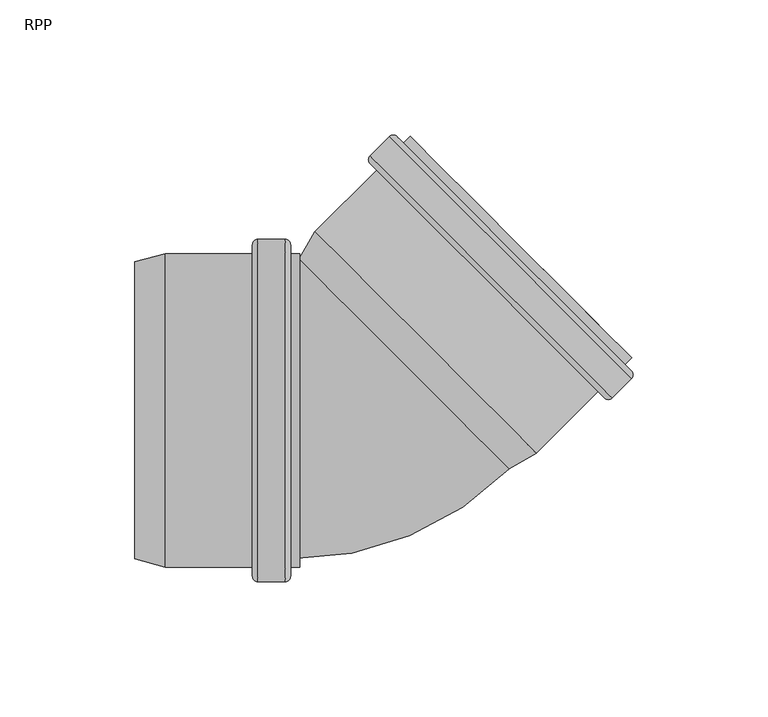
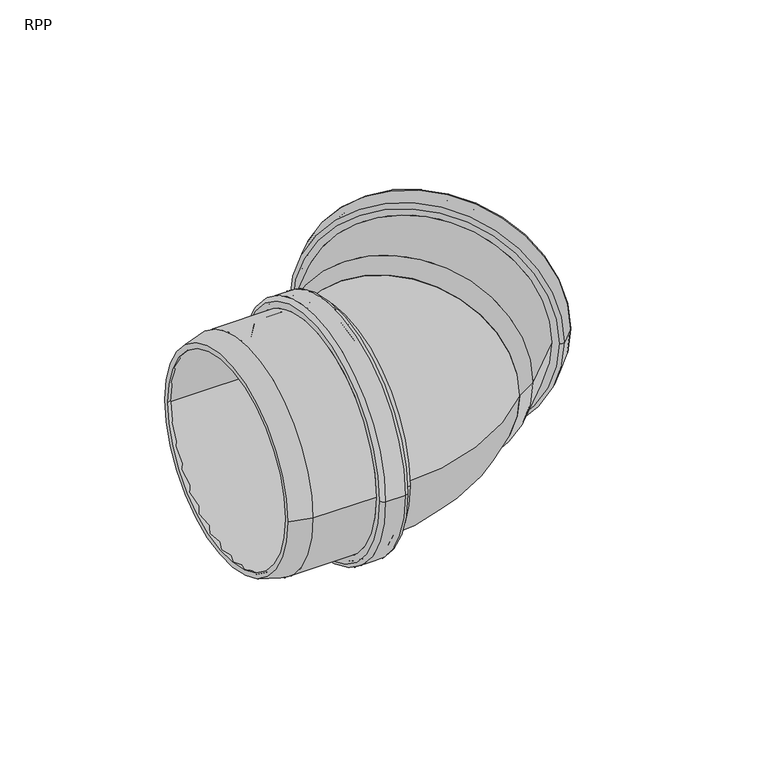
"""IFC4 building model written with IfcOpenShell, lengths in millimetres: pipe fitting geometry, RAUPIANO PLUS Bend : RPP."""

from ifc_helpers import new_model, si_unit, point, frame, origin, place, context, project, spatial, polyline, circle_curve, ellipse_curve, trimmed, source, transform, mapped, element, save
from ifc_brep_helpers import plane_surface, cylinder_surface, revolved_surface, advanced_brep


def rpp_add493c2(model_context):
    return source(origin(), model_context, "Body", "AdvancedBrep", [
        advanced_brep(
        [(-36.2386002, -55.3, 0.0), (-36.2386002, 55.3, 0.0), (-70.886986, 55.3, 0.0), (-70.886986, -55.3, 0.0), (-35.7386002, -60.7, 0.0), (-35.7386002, 60.7, 0.0), (-36.2386002, 60.2, 0.0), (-36.2386002, -60.2, 0.0), (-28.0386002, -60.7, 0.0), (-28.0386002, 60.7, 0.0), (-27.5386002, -60.2, 0.0), (-27.5386002, 60.2, 0.0), (-21.3386002, -55.3, 0.0), (-21.3386002, 55.3, 0.0), (-27.5386002, 55.3, 0.0), (-27.5386002, -55.3, 0.0), (-24.8386002, -58.0, 0.0), (-24.8386002, 58.0, 0.0), (-21.3386002, 58.0, 0.0), (-21.3386002, -58.0, 0.0), (-26.8386002, -63.4, 0.0), (-26.8386002, 63.4, 0.0), (-24.8386002, 61.4, 0.0), (-24.8386002, -61.4, 0.0), (-36.9386002, -63.4, 0.0), (-36.9386002, 63.4, 0.0), (-38.9386002, -61.4, 0.0), (-38.9386002, 61.4, 0.0), (-71.2424478, -58.0, 0.0), (-71.2424478, 58.0, 0.0), (-38.9386002, 58.0, 0.0), (-38.9386002, -58.0, 0.0), (-82.4386002, -55.0, 0.0), (-82.4386002, 55.0, 0.0), (-82.4386002, 52.2047543, 0.0), (-82.4386002, -52.2047543, 0.0)],
        [
            (0, 1, circle_curve(frame((-36.2386002, 0.0, 0.0), z_axis=(1.0, 0.0, 0.0), x_axis=(0.0, 1.0, 0.0)), 55.3)),
            (1, 2),
            (2, 3, circle_curve(frame((-70.886986, 0.0, 0.0), z_axis=(-1.0, 0.0, 0.0), x_axis=(0.0, 1.0, 0.0)), 55.3)),
            (3, 0),
            (4, 5, circle_curve(frame((-35.7386002, 0.0, 0.0), z_axis=(1.0, 0.0, 0.0), x_axis=(0.0, 1.0, 0.0)), 60.7)),
            (5, 6, circle_curve(frame((-35.7386002, 60.2, 0.0), z_axis=(0.0, 0.0, 1.0), x_axis=(0.0, -1.0, 0.0)), 0.5)),
            (6, 7, circle_curve(frame((-36.2386002, 0.0, 0.0), z_axis=(-1.0, 0.0, 0.0), x_axis=(0.0, 1.0, 0.0)), 60.2)),
            (7, 4, circle_curve(frame((-35.7386002, -60.2, 0.0), z_axis=(0.0, 0.0, 1.0), x_axis=(0.0, 1.0, 0.0)), 0.5)),
            (8, 9, circle_curve(frame((-28.0386002, 0.0, 0.0), z_axis=(1.0, 0.0, 0.0), x_axis=(0.0, 1.0, 0.0)), 60.7)),
            (9, 5),
            (4, 8),
            (10, 11, circle_curve(frame((-27.5386002, 0.0, 0.0), z_axis=(1.0, 0.0, 0.0), x_axis=(0.0, 1.0, 0.0)), 60.2)),
            (11, 9, circle_curve(frame((-28.0386002, 60.2, 0.0), z_axis=(0.0, 0.0, 1.0), x_axis=(0.0, -1.0, 0.0)), 0.5)),
            (8, 10, circle_curve(frame((-28.0386002, -60.2, 0.0), z_axis=(0.0, 0.0, 1.0), x_axis=(0.0, 1.0, 0.0)), 0.5)),
            (12, 13, circle_curve(frame((-21.3386002, 0.0, 0.0), z_axis=(1.0, 0.0, 0.0), x_axis=(0.0, 1.0, 0.0)), 55.3)),
            (13, 14),
            (14, 15, circle_curve(frame((-27.5386002, 0.0, 0.0), z_axis=(-1.0, 0.0, 0.0), x_axis=(0.0, 1.0, 0.0)), 55.3)),
            (15, 12),
            (16, 17, circle_curve(frame((-24.8386002, 0.0, 0.0), z_axis=(1.0, 0.0, 0.0), x_axis=(0.0, 1.0, 0.0)), 58.0)),
            (17, 18),
            (18, 19, circle_curve(frame((-21.3386002, 0.0, 0.0), z_axis=(-1.0, 0.0, 0.0), x_axis=(0.0, 1.0, 0.0)), 58.0)),
            (19, 16),
            (20, 21, circle_curve(frame((-26.8386002, 0.0, 0.0), z_axis=(1.0, 0.0, 0.0), x_axis=(0.0, 1.0, 0.0)), 63.4)),
            (21, 22, circle_curve(frame((-26.8386002, 61.4, 0.0), z_axis=(0.0, 0.0, -1.0), x_axis=(0.0, -1.0, 0.0)), 2.0)),
            (22, 23, circle_curve(frame((-24.8386002, 0.0, 0.0), z_axis=(-1.0, 0.0, 0.0), x_axis=(0.0, 1.0, 0.0)), 61.4)),
            (23, 20, circle_curve(frame((-26.8386002, -61.4, 0.0), z_axis=(0.0, 0.0, -1.0), x_axis=(0.0, 1.0, 0.0)), 2.0)),
            (24, 25, circle_curve(frame((-36.9386002, 0.0, 0.0), z_axis=(1.0, 0.0, 0.0), x_axis=(0.0, 1.0, 0.0)), 63.4)),
            (25, 21),
            (20, 24),
            (26, 27, circle_curve(frame((-38.9386002, 0.0, 0.0), z_axis=(1.0, 0.0, 0.0), x_axis=(0.0, 1.0, 0.0)), 61.4)),
            (27, 25, circle_curve(frame((-36.9386002, 61.4, 0.0), z_axis=(0.0, 0.0, -1.0), x_axis=(0.0, -1.0, 0.0)), 2.0)),
            (24, 26, circle_curve(frame((-36.9386002, -61.4, 0.0), z_axis=(0.0, 0.0, -1.0), x_axis=(0.0, 1.0, 0.0)), 2.0)),
            (28, 29, circle_curve(frame((-71.2424478, 0.0, 0.0), z_axis=(1.0, 0.0, 0.0), x_axis=(0.0, 1.0, 0.0)), 58.0)),
            (29, 30),
            (30, 31, circle_curve(frame((-38.9386002, 0.0, 0.0), z_axis=(-1.0, 0.0, 0.0), x_axis=(0.0, 1.0, 0.0)), 58.0)),
            (31, 28),
            (32, 33, circle_curve(frame((-82.4386002, 0.0, 0.0), z_axis=(1.0, 0.0, 0.0), x_axis=(0.0, 1.0, 0.0)), 55.0)),
            (33, 29),
            (28, 32),
            (2, 34),
            (34, 35, circle_curve(frame((-82.4386002, 0.0, 0.0), z_axis=(-1.0, 0.0, 0.0), x_axis=(0.0, 1.0, 0.0)), 52.2047543)),
            (35, 3),
            (1, 0, circle_curve(frame((-36.2386002, 0.0, 0.0), z_axis=(1.0, 0.0, 0.0), x_axis=(0.0, -1.0, 0.0)), 55.3)),
            (3, 2, circle_curve(frame((-70.886986, 0.0, 0.0), z_axis=(-1.0, 0.0, 0.0), x_axis=(0.0, -1.0, 0.0)), 55.3)),
            (6, 7, circle_curve(frame((-36.2386002, 0.0, 0.0), z_axis=(1.0, 0.0, 0.0), x_axis=(0.0, -1.0, 0.0)), 60.2)),
            (5, 4, circle_curve(frame((-35.7386002, 0.0, 0.0), z_axis=(1.0, 0.0, 0.0), x_axis=(0.0, -1.0, 0.0)), 60.7)),
            (9, 8, circle_curve(frame((-28.0386002, 0.0, 0.0), z_axis=(1.0, 0.0, 0.0), x_axis=(0.0, -1.0, 0.0)), 60.7)),
            (11, 10, circle_curve(frame((-27.5386002, 0.0, 0.0), z_axis=(1.0, 0.0, 0.0), x_axis=(0.0, -1.0, 0.0)), 60.2)),
            (14, 15, circle_curve(frame((-27.5386002, 0.0, 0.0), z_axis=(1.0, 0.0, 0.0), x_axis=(0.0, -1.0, 0.0)), 55.3)),
            (13, 12, circle_curve(frame((-21.3386002, 0.0, 0.0), z_axis=(1.0, 0.0, 0.0), x_axis=(0.0, -1.0, 0.0)), 55.3)),
            (18, 19, circle_curve(frame((-21.3386002, 0.0, 0.0), z_axis=(1.0, 0.0, 0.0), x_axis=(0.0, -1.0, 0.0)), 58.0)),
            (17, 16, circle_curve(frame((-24.8386002, 0.0, 0.0), z_axis=(1.0, 0.0, 0.0), x_axis=(0.0, -1.0, 0.0)), 58.0)),
            (22, 23, circle_curve(frame((-24.8386002, 0.0, 0.0), z_axis=(1.0, 0.0, 0.0), x_axis=(0.0, -1.0, 0.0)), 61.4)),
            (21, 20, circle_curve(frame((-26.8386002, 0.0, 0.0), z_axis=(1.0, 0.0, 0.0), x_axis=(0.0, -1.0, 0.0)), 63.4)),
            (25, 24, circle_curve(frame((-36.9386002, 0.0, 0.0), z_axis=(1.0, 0.0, 0.0), x_axis=(0.0, -1.0, 0.0)), 63.4)),
            (27, 26, circle_curve(frame((-38.9386002, 0.0, 0.0), z_axis=(1.0, 0.0, 0.0), x_axis=(0.0, -1.0, 0.0)), 61.4)),
            (30, 31, circle_curve(frame((-38.9386002, 0.0, 0.0), z_axis=(1.0, 0.0, 0.0), x_axis=(0.0, -1.0, 0.0)), 58.0)),
            (29, 28, circle_curve(frame((-71.2424478, 0.0, 0.0), z_axis=(1.0, 0.0, 0.0), x_axis=(0.0, -1.0, 0.0)), 58.0)),
            (33, 32, circle_curve(frame((-82.4386002, 0.0, 0.0), z_axis=(1.0, 0.0, 0.0), x_axis=(0.0, -1.0, 0.0)), 55.0)),
            (34, 35, circle_curve(frame((-82.4386002, 0.0, 0.0), z_axis=(1.0, 0.0, 0.0), x_axis=(0.0, -1.0, 0.0)), 52.2047543)),
        ],
        [
            revolved_surface(polyline([(-70.886986, 55.3, 0.0), (-36.2386002, 55.3, 0.0)]), (-82.4386002, 0.0, 0.0), (-1.0, 0.0, 0.0)),
            revolved_surface(trimmed(ellipse_curve(frame((-35.7386002, 60.2, 0.0), z_axis=(0.0, 0.0, -1.0), x_axis=(0.0, -1.0, 0.0)), 0.5, 0.5), [point((-36.2386002, 60.2, 0.0))], [point((-35.7386002, 60.7, 0.0))], True, "CARTESIAN"), (-82.4386002, 0.0, 0.0), (-1.0, 0.0, 0.0)),
            revolved_surface(polyline([(-35.7386002, 60.7, 0.0), (-28.038600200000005, 60.7, 0.0)]), (-82.4386002, 0.0, 0.0), (-1.0, 0.0, 0.0)),
            revolved_surface(trimmed(ellipse_curve(frame((-28.0386002, 60.2, 0.0), z_axis=(0.0, 0.0, -1.0), x_axis=(0.0, -1.0, 0.0)), 0.5, 0.5), [point((-28.0386002, 60.7, 0.0))], [point((-27.5386002, 60.2, 0.0))], True, "CARTESIAN"), (-82.4386002, 0.0, 0.0), (-1.0, 0.0, 0.0)),
            revolved_surface(polyline([(-27.538600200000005, 55.3, 0.0), (-21.338600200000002, 55.3, 0.0)]), (-82.4386002, 0.0, 0.0), (-1.0, 0.0, 0.0)),
            cylinder_surface(frame((-82.4386002, 0.0, 0.0), z_axis=(-1.0, 0.0, 0.0), x_axis=(0.0, 1.0, 0.0)), 58.0),
            revolved_surface(trimmed(ellipse_curve(frame((-26.8386002, 61.4, 0.0), z_axis=(0.0, 0.0, 1.0), x_axis=(0.0, -1.0, 0.0)), 2.0, 2.0), [point((-24.8386002, 61.4, 0.0))], [point((-26.8386002, 63.4, 0.0))], True, "CARTESIAN"), (-82.4386002, 0.0, 0.0), (-1.0, 0.0, 0.0)),
            cylinder_surface(frame((-82.4386002, 0.0, 0.0), z_axis=(-1.0, 0.0, 0.0), x_axis=(0.0, 1.0, 0.0)), 63.4),
            revolved_surface(trimmed(ellipse_curve(frame((-36.9386002, 61.4, 0.0), z_axis=(0.0, 0.0, 1.0), x_axis=(0.0, -1.0, 0.0)), 2.0, 2.0), [point((-36.9386002, 63.4, 0.0))], [point((-38.9386002, 61.4, 0.0))], True, "CARTESIAN"), (-82.4386002, 0.0, 0.0), (-1.0, 0.0, 0.0)),
            revolved_surface(polyline([(-71.2424478, 58.0, 0.0), (-82.4386002, 55.0, 0.0)]), (-82.4386002, 0.0, 0.0), (-1.0, 0.0, 0.0)),
            revolved_surface(polyline([(-82.4386002, 52.2047543, 0.0), (-70.886986, 55.3, 0.0)]), (-82.4386002, 0.0, 0.0), (-1.0, 0.0, 0.0)),
            revolved_surface(polyline([(-70.886986, -55.3, 0.0), (-36.2386002, -55.3, 0.0)]), (-82.4386002, 0.0, 0.0), (-1.0, 0.0, 0.0)),
            plane_surface(frame((-36.2386002, 0.0, 0.0), z_axis=(1.0, 0.0, 0.0), x_axis=(0.0, -1.0, 0.0))),
            revolved_surface(trimmed(ellipse_curve(frame((-35.7386002, -60.2, 0.0), z_axis=(0.0, 0.0, 1.0), x_axis=(0.0, 1.0, 0.0)), 0.5, 0.5), [point((-36.2386002, -60.2, 0.0))], [point((-35.7386002, -60.7, 0.0))], True, "CARTESIAN"), (-82.4386002, 0.0, 0.0), (-1.0, 0.0, 0.0)),
            revolved_surface(polyline([(-35.7386002, -60.7, 0.0), (-28.038600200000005, -60.7, 0.0)]), (-82.4386002, 0.0, 0.0), (-1.0, 0.0, 0.0)),
            revolved_surface(trimmed(ellipse_curve(frame((-28.0386002, -60.2, 0.0), z_axis=(0.0, 0.0, 1.0), x_axis=(0.0, 1.0, 0.0)), 0.5, 0.5), [point((-28.0386002, -60.7, 0.0))], [point((-27.5386002, -60.2, 0.0))], True, "CARTESIAN"), (-82.4386002, 0.0, 0.0), (-1.0, 0.0, 0.0)),
            plane_surface(frame((-27.5386002, 0.0, 0.0), z_axis=(-1.0, 0.0, 0.0), x_axis=(0.0, -1.0, 0.0))),
            revolved_surface(polyline([(-27.538600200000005, -55.3, 0.0), (-21.338600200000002, -55.3, 0.0)]), (-82.4386002, 0.0, 0.0), (-1.0, 0.0, 0.0)),
            plane_surface(frame((-21.3386002, 0.0, 0.0), z_axis=(1.0, 0.0, 0.0), x_axis=(0.0, -1.0, 0.0))),
            cylinder_surface(frame((-82.4386002, 0.0, 0.0), z_axis=(-1.0, 0.0, 0.0), x_axis=(0.0, -1.0, 0.0)), 58.0),
            plane_surface(frame((-24.8386002, 0.0, 0.0), z_axis=(1.0, 0.0, 0.0), x_axis=(0.0, -1.0, 0.0))),
            revolved_surface(trimmed(ellipse_curve(frame((-26.8386002, -61.4, 0.0), z_axis=(0.0, 0.0, -1.0), x_axis=(0.0, 1.0, 0.0)), 2.0, 2.0), [point((-24.8386002, -61.4, 0.0))], [point((-26.8386002, -63.4, 0.0))], True, "CARTESIAN"), (-82.4386002, 0.0, 0.0), (-1.0, 0.0, 0.0)),
            cylinder_surface(frame((-82.4386002, 0.0, 0.0), z_axis=(-1.0, 0.0, 0.0), x_axis=(0.0, -1.0, 0.0)), 63.4),
            revolved_surface(trimmed(ellipse_curve(frame((-36.9386002, -61.4, 0.0), z_axis=(0.0, 0.0, -1.0), x_axis=(0.0, 1.0, 0.0)), 2.0, 2.0), [point((-36.9386002, -63.4, 0.0))], [point((-38.9386002, -61.4, 0.0))], True, "CARTESIAN"), (-82.4386002, 0.0, 0.0), (-1.0, 0.0, 0.0)),
            plane_surface(frame((-38.9386002, 0.0, 0.0), z_axis=(-1.0, 0.0, 0.0), x_axis=(0.0, -1.0, 0.0))),
            revolved_surface(polyline([(-71.2424478, -58.0, 0.0), (-82.4386002, -55.0, 0.0)]), (-82.4386002, 0.0, 0.0), (-1.0, 0.0, 0.0)),
            plane_surface(frame((-82.4386002, 0.0, 0.0), z_axis=(-1.0, 0.0, 0.0), x_axis=(0.0, -1.0, 0.0))),
            revolved_surface(polyline([(-82.4386002, -52.2047543, 0.0), (-70.886986, -55.3, 0.0)]), (-82.4386002, 0.0, 0.0), (-1.0, 0.0, 0.0)),
        ],
        [
            (0, [[1, 2, 3, 4]]),
            (1, [[5, 6, 7, 8]]),
            (2, [[9, 10, -5, 11]]),
            (3, [[12, 13, -9, 14]]),
            (4, [[15, 16, 17, 18]]),
            (5, [[19, 20, 21, 22]]),
            (6, [[23, 24, 25, 26]]),
            (7, [[27, 28, -23, 29]]),
            (8, [[30, 31, -27, 32]]),
            (5, [[33, 34, 35, 36]]),
            (9, [[37, 38, -33, 39]]),
            (10, [[-3, 40, 41, 42]]),
            (11, [[43, -4, 44, -2]]),
            (12, [[45, -7], [-43, -1]]),
            (13, [[46, -8, -45, -6]]),
            (14, [[47, -11, -46, -10]]),
            (15, [[48, -14, -47, -13]]),
            (16, [[-48, -12], [49, -17]]),
            (17, [[50, -18, -49, -16]]),
            (18, [[51, -21], [-50, -15]]),
            (19, [[52, -22, -51, -20]]),
            (20, [[53, -25], [-52, -19]]),
            (21, [[54, -26, -53, -24]]),
            (22, [[55, -29, -54, -28]]),
            (23, [[56, -32, -55, -31]]),
            (24, [[-56, -30], [57, -35]]),
            (19, [[58, -36, -57, -34]]),
            (25, [[59, -39, -58, -38]]),
            (26, [[-59, -37], [60, -41]]),
            (27, [[-44, -42, -60, -40]]),
        ],
    ),
        advanced_brep(
        [(54.1950357, -19.6336359, 0.0), (-19.6336359, 54.1950357, 0.0), (-13.6540804, 64.5519296, 0.0), (64.5519296, -13.6540804, 0.0), (66.2097685, -15.8146181, 0.0), (-15.8146181, 66.2097685, 0.0), (-21.6101731, 56.1715729, 0.0), (56.1715729, -21.6101731, 0.0), (89.0520382, 7.0276516, 0.0), (7.0276516, 89.0520382, 0.0), (101.4264069, 11.765267, 0.0), (11.765267, 101.4264069, 0.0), (4.6234885, 94.2846284, 0.0), (94.2846284, 4.6234885, 0.0), (101.4971175, 19.4727309, 0.0), (19.4727309, 101.4971175, 0.0), (16.9978572, 99.0222438, 0.0), (99.0222438, 16.9978572, 0.0), (95.2038672, 16.9978572, 0.0), (16.9978572, 95.2038672, 0.0), (21.3819192, 99.5879292, 0.0), (99.5879292, 21.3819192, 0.0), (93.2239682, 7.381205, 0.0), (7.381205, 93.2239682, 0.0), (12.8259272, 98.6686904, 0.0), (98.6686904, 12.8259272, 0.0), (10.8460282, 89.0520382, 0.0), (89.0520382, 10.8460282, 0.0), (4.6234885, 91.4562013, 0.0), (91.4562013, 4.6234885, 0.0), (101.4264069, 14.5936941, 0.0), (14.5936941, 101.4264069, 0.0), (13.533034, 98.6686904, 0.0), (98.6686904, 13.533034, 0.0), (92.5168614, 7.381205, 0.0), (7.381205, 92.5168614, 0.0)],
        [
            (0, 1, circle_curve(frame((17.2806999, 17.2806999, 0.0), z_axis=(-0.7071067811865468, -0.7071067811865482, 0.0), x_axis=(-0.7071067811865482, 0.7071067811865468, 0.0)), 52.2047543)),
            (1, 2),
            (2, 3, circle_curve(frame((25.4489246, 25.4489246, 0.0), z_axis=(0.7071067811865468, 0.7071067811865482, 0.0), x_axis=(-0.7071067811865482, 0.7071067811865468, 0.0)), 55.3)),
            (3, 0),
            (4, 5, circle_curve(frame((25.1975752, 25.1975752, 0.0), z_axis=(-0.7071067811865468, -0.7071067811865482, 0.0), x_axis=(-0.7071067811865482, 0.7071067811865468, 0.0)), 58.0)),
            (5, 6),
            (6, 7, circle_curve(frame((17.2806999, 17.2806999, 0.0), z_axis=(0.7071067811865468, 0.7071067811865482, 0.0), x_axis=(-0.7071067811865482, 0.7071067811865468, 0.0)), 55.0)),
            (7, 4),
            (8, 9, circle_curve(frame((48.0398449, 48.0398449, 0.0), z_axis=(-0.7071067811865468, -0.7071067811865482, 0.0), x_axis=(-0.7071067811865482, 0.7071067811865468, 0.0)), 58.0)),
            (9, 5),
            (4, 8),
            (10, 11, circle_curve(frame((56.5958369, 56.5958369, 0.0), z_axis=(-0.7071067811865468, -0.7071067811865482, 0.0), x_axis=(-0.7071067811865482, 0.7071067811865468, 0.0)), 63.4)),
            (11, 12),
            (12, 13, circle_curve(frame((49.4540585, 49.4540585, 0.0), z_axis=(0.7071067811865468, 0.7071067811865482, 0.0), x_axis=(-0.7071067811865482, 0.7071067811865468, 0.0)), 63.4)),
            (13, 10),
            (14, 15, circle_curve(frame((60.4849242, 60.4849242, 0.0), z_axis=(-0.7071067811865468, -0.7071067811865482, 0.0), x_axis=(-0.7071067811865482, 0.7071067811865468, 0.0)), 58.0)),
            (15, 16),
            (16, 17, circle_curve(frame((58.0100505, 58.0100505, 0.0), z_axis=(0.7071067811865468, 0.7071067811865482, 0.0), x_axis=(-0.7071067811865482, 0.7071067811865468, 0.0)), 58.0)),
            (17, 14),
            (18, 19, circle_curve(frame((56.1008622, 56.1008622, 0.0), z_axis=(-0.7071067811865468, -0.7071067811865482, 0.0), x_axis=(-0.7071067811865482, 0.7071067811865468, 0.0)), 55.3)),
            (19, 20),
            (20, 21, circle_curve(frame((60.4849242, 60.4849242, 0.0), z_axis=(0.7071067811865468, 0.7071067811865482, 0.0), x_axis=(-0.7071067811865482, 0.7071067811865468, 0.0)), 55.3)),
            (21, 18),
            (22, 23, circle_curve(frame((50.3025866, 50.3025866, 0.0), z_axis=(-0.7071067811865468, -0.7071067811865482, 0.0), x_axis=(-0.7071067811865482, 0.7071067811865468, 0.0)), 60.7)),
            (23, 24),
            (24, 25, circle_curve(frame((55.7473088, 55.7473088, 0.0), z_axis=(0.7071067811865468, 0.7071067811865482, 0.0), x_axis=(-0.7071067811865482, 0.7071067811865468, 0.0)), 60.7)),
            (25, 22),
            (2, 26),
            (26, 27, circle_curve(frame((49.9490332, 49.9490332, 0.0), z_axis=(0.7071067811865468, 0.7071067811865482, 0.0), x_axis=(-0.7071067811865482, 0.7071067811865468, 0.0)), 55.3)),
            (27, 3),
            (1, 0, circle_curve(frame((17.2806999, 17.2806999, 0.0), z_axis=(-0.7071067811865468, -0.7071067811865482, 0.0), x_axis=(0.7071067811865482, -0.7071067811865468, 0.0)), 52.2047543)),
            (3, 2, circle_curve(frame((25.4489246, 25.4489246, 0.0), z_axis=(0.7071067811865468, 0.7071067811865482, 0.0), x_axis=(0.7071067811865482, -0.7071067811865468, 0.0)), 55.3)),
            (6, 7, circle_curve(frame((17.2806999, 17.2806999, 0.0), z_axis=(-0.7071067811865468, -0.7071067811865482, 0.0), x_axis=(0.7071067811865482, -0.7071067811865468, 0.0)), 55.0)),
            (5, 4, circle_curve(frame((25.1975752, 25.1975752, 0.0), z_axis=(-0.7071067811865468, -0.7071067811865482, 0.0), x_axis=(0.7071067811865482, -0.7071067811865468, 0.0)), 58.0)),
            (9, 8, circle_curve(frame((48.0398449, 48.0398449, 0.0), z_axis=(-0.7071067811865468, -0.7071067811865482, 0.0), x_axis=(0.7071067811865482, -0.7071067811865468, 0.0)), 58.0)),
            (28, 29, circle_curve(frame((48.0398449, 48.0398449, 0.0), z_axis=(-0.7071067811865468, -0.7071067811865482, 0.0), x_axis=(0.7071067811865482, -0.7071067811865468, 0.0)), 61.4)),
            (29, 28, circle_curve(frame((48.0398449, 48.0398449, 0.0), z_axis=(-0.7071067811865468, -0.7071067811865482, 0.0), x_axis=(-0.7071067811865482, 0.7071067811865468, 0.0)), 61.4)),
            (11, 10, circle_curve(frame((56.5958369, 56.5958369, 0.0), z_axis=(-0.7071067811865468, -0.7071067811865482, 0.0), x_axis=(0.7071067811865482, -0.7071067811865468, 0.0)), 63.4)),
            (13, 12, circle_curve(frame((49.4540585, 49.4540585, 0.0), z_axis=(0.7071067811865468, 0.7071067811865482, 0.0), x_axis=(0.7071067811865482, -0.7071067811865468, 0.0)), 63.4)),
            (30, 31, circle_curve(frame((58.0100505, 58.0100505, 0.0), z_axis=(0.7071067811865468, 0.7071067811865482, 0.0), x_axis=(0.7071067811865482, -0.7071067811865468, 0.0)), 61.4)),
            (31, 30, circle_curve(frame((58.0100505, 58.0100505, 0.0), z_axis=(0.7071067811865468, 0.7071067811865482, 0.0), x_axis=(-0.7071067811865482, 0.7071067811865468, 0.0)), 61.4)),
            (16, 17, circle_curve(frame((58.0100505, 58.0100505, 0.0), z_axis=(-0.7071067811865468, -0.7071067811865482, 0.0), x_axis=(0.7071067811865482, -0.7071067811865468, 0.0)), 58.0)),
            (15, 14, circle_curve(frame((60.4849242, 60.4849242, 0.0), z_axis=(-0.7071067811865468, -0.7071067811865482, 0.0), x_axis=(0.7071067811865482, -0.7071067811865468, 0.0)), 58.0)),
            (20, 21, circle_curve(frame((60.4849242, 60.4849242, 0.0), z_axis=(-0.7071067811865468, -0.7071067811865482, 0.0), x_axis=(0.7071067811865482, -0.7071067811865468, 0.0)), 55.3)),
            (19, 18, circle_curve(frame((56.1008622, 56.1008622, 0.0), z_axis=(-0.7071067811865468, -0.7071067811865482, 0.0), x_axis=(0.7071067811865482, -0.7071067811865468, 0.0)), 55.3)),
            (32, 33, circle_curve(frame((56.1008622, 56.1008622, 0.0), z_axis=(-0.7071067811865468, -0.7071067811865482, 0.0), x_axis=(0.7071067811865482, -0.7071067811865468, 0.0)), 60.2)),
            (33, 32, circle_curve(frame((56.1008622, 56.1008622, 0.0), z_axis=(-0.7071067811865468, -0.7071067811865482, 0.0), x_axis=(-0.7071067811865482, 0.7071067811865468, 0.0)), 60.2)),
            (23, 22, circle_curve(frame((50.3025866, 50.3025866, 0.0), z_axis=(-0.7071067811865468, -0.7071067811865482, 0.0), x_axis=(0.7071067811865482, -0.7071067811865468, 0.0)), 60.7)),
            (25, 24, circle_curve(frame((55.7473088, 55.7473088, 0.0), z_axis=(0.7071067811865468, 0.7071067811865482, 0.0), x_axis=(0.7071067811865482, -0.7071067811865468, 0.0)), 60.7)),
            (34, 35, circle_curve(frame((49.9490332, 49.9490332, 0.0), z_axis=(0.7071067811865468, 0.7071067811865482, 0.0), x_axis=(0.7071067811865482, -0.7071067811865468, 0.0)), 60.2)),
            (35, 34, circle_curve(frame((49.9490332, 49.9490332, 0.0), z_axis=(0.7071067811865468, 0.7071067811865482, 0.0), x_axis=(-0.7071067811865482, 0.7071067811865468, 0.0)), 60.2)),
            (26, 27, circle_curve(frame((49.9490332, 49.9490332, 0.0), z_axis=(-0.7071067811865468, -0.7071067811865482, 0.0), x_axis=(0.7071067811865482, -0.7071067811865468, 0.0)), 55.3)),
            (12, 28, circle_curve(frame((6.0377021, 92.8704148, 0.0), z_axis=(0.0, 0.0, 1.0), x_axis=(0.7071067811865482, -0.7071067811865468, 0.0)), 2.0)),
            (29, 13, circle_curve(frame((92.8704148, 6.0377021, 0.0), z_axis=(0.0, 0.0, 1.0), x_axis=(-0.7071067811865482, 0.7071067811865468, 0.0)), 2.0)),
            (31, 11, circle_curve(frame((13.1794806, 100.0121933, 0.0), z_axis=(0.0, 0.0, 1.0), x_axis=(0.7071067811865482, -0.7071067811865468, 0.0)), 2.0)),
            (10, 30, circle_curve(frame((100.0121933, 13.1794806, 0.0), z_axis=(0.0, 0.0, 1.0), x_axis=(-0.7071067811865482, 0.7071067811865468, 0.0)), 2.0)),
            (24, 32, circle_curve(frame((13.1794806, 98.315137, 0.0), z_axis=(0.0, 0.0, -1.0), x_axis=(0.7071067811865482, -0.7071067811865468, 0.0)), 0.5)),
            (33, 25, circle_curve(frame((98.315137, 13.1794806, 0.0), z_axis=(0.0, 0.0, -1.0), x_axis=(-0.7071067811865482, 0.7071067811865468, 0.0)), 0.5)),
            (35, 23, circle_curve(frame((7.7347584, 92.8704148, 0.0), z_axis=(0.0, 0.0, -1.0), x_axis=(0.7071067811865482, -0.7071067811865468, 0.0)), 0.5)),
            (22, 34, circle_curve(frame((92.8704148, 7.7347584, 0.0), z_axis=(0.0, 0.0, -1.0), x_axis=(-0.7071067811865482, 0.7071067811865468, 0.0)), 0.5)),
        ],
        [
            revolved_surface(polyline([(-13.6540804, 64.5519296, 0.0), (-19.6336359, 54.1950357, 0.0)]), (17.2806999, 17.2806999, 0.0), (0.7071067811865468, 0.7071067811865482, 0.0)),
            revolved_surface(polyline([(-21.6101731, 56.1715729, 0.0), (-15.8146181, 66.2097685, 0.0)]), (17.2806999, 17.2806999, 0.0), (0.7071067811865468, 0.7071067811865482, 0.0)),
            cylinder_surface(frame((17.2806999, 17.2806999, 0.0), z_axis=(0.7071067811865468, 0.7071067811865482, 0.0), x_axis=(-0.7071067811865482, 0.7071067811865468, 0.0)), 58.0),
            cylinder_surface(frame((17.2806999, 17.2806999, 0.0), z_axis=(0.7071067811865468, 0.7071067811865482, 0.0), x_axis=(-0.7071067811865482, 0.7071067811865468, 0.0)), 63.4),
            revolved_surface(polyline([(21.38191920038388, 99.58792919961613, 0.0), (16.9978572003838, 95.20386719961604, 0.0)]), (17.2806999, 17.2806999, 0.0), (0.7071067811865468, 0.7071067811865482, 0.0)),
            revolved_surface(polyline([(12.825927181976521, 98.66869041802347, 0.0), (7.381204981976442, 93.22396821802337, 0.0)]), (17.2806999, 17.2806999, 0.0), (0.7071067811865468, 0.7071067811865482, 0.0)),
            revolved_surface(polyline([(10.84602820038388, 89.0520381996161, 0.0), (-13.654080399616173, 64.551929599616, 0.0)]), (17.2806999, 17.2806999, 0.0), (0.7071067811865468, 0.7071067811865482, 0.0)),
            revolved_surface(polyline([(64.5519296, -13.6540804, 0.0), (54.1950357, -19.6336359, 0.0)]), (17.2806999, 17.2806999, 0.0), (0.7071067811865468, 0.7071067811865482, 0.0)),
            plane_surface(frame((17.2806999, 17.2806999, 0.0), z_axis=(-0.7071067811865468, -0.7071067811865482, 0.0), x_axis=(0.7071067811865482, -0.7071067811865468, 0.0))),
            revolved_surface(polyline([(56.1715729, -21.6101731, 0.0), (66.2097685, -15.8146181, 0.0)]), (17.2806999, 17.2806999, 0.0), (0.7071067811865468, 0.7071067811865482, 0.0)),
            cylinder_surface(frame((17.2806999, 17.2806999, 0.0), z_axis=(0.7071067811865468, 0.7071067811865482, 0.0), x_axis=(0.7071067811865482, -0.7071067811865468, 0.0)), 58.0),
            plane_surface(frame((48.0398449, 48.0398449, 0.0), z_axis=(-0.7071067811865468, -0.7071067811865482, 0.0), x_axis=(0.7071067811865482, -0.7071067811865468, 0.0))),
            cylinder_surface(frame((17.2806999, 17.2806999, 0.0), z_axis=(0.7071067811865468, 0.7071067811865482, 0.0), x_axis=(0.7071067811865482, -0.7071067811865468, 0.0)), 63.4),
            plane_surface(frame((58.0100505, 58.0100505, 0.0), z_axis=(0.7071067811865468, 0.7071067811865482, 0.0), x_axis=(0.7071067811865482, -0.7071067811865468, 0.0))),
            plane_surface(frame((60.4849242, 60.4849242, 0.0), z_axis=(0.7071067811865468, 0.7071067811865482, 0.0), x_axis=(0.7071067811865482, -0.7071067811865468, 0.0))),
            revolved_surface(polyline([(99.58792919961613, 21.38191920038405, 0.0), (95.20386719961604, 16.997857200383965, 0.0)]), (17.2806999, 17.2806999, 0.0), (0.7071067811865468, 0.7071067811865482, 0.0)),
            plane_surface(frame((56.1008622, 56.1008622, 0.0), z_axis=(-0.7071067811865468, -0.7071067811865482, 0.0), x_axis=(0.7071067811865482, -0.7071067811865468, 0.0))),
            revolved_surface(polyline([(98.66869041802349, 12.825927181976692, 0.0), (93.2239682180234, 7.381204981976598, 0.0)]), (17.2806999, 17.2806999, 0.0), (0.7071067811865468, 0.7071067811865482, 0.0)),
            plane_surface(frame((49.9490332, 49.9490332, 0.0), z_axis=(0.7071067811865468, 0.7071067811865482, 0.0), x_axis=(0.7071067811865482, -0.7071067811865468, 0.0))),
            revolved_surface(polyline([(89.05203819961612, 10.846028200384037, 0.0), (64.55192959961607, -13.654080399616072, 0.0)]), (17.2806999, 17.2806999, 0.0), (0.7071067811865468, 0.7071067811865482, 0.0)),
            revolved_surface(trimmed(ellipse_curve(frame((6.0377021, 92.8704148, 0.0), z_axis=(0.0, 0.0, -1.0), x_axis=(0.7071067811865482, -0.7071067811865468, 0.0)), 2.0, 2.0), [point((4.6234885, 91.4562013, 0.0))], [point((4.6234885, 94.2846284, 0.0))], True, "CARTESIAN"), (17.2806999, 17.2806999, 0.0), (0.7071067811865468, 0.7071067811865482, 0.0)),
            revolved_surface(trimmed(ellipse_curve(frame((13.1794806, 100.0121933, 0.0), z_axis=(0.0, 0.0, -1.0), x_axis=(0.7071067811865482, -0.7071067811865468, 0.0)), 2.0, 2.0), [point((11.765267, 101.4264069, 0.0))], [point((14.5936941, 101.4264069, 0.0))], True, "CARTESIAN"), (17.2806999, 17.2806999, 0.0), (0.7071067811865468, 0.7071067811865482, 0.0)),
            revolved_surface(trimmed(ellipse_curve(frame((13.1794806, 98.315137, 0.0), z_axis=(0.0, 0.0, 1.0), x_axis=(0.7071067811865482, -0.7071067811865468, 0.0)), 0.5, 0.5), [point((13.533034, 98.6686904, 0.0))], [point((12.8259272, 98.6686904, 0.0))], True, "CARTESIAN"), (17.2806999, 17.2806999, 0.0), (0.7071067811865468, 0.7071067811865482, 0.0)),
            revolved_surface(trimmed(ellipse_curve(frame((7.7347584, 92.8704148, 0.0), z_axis=(0.0, 0.0, 1.0), x_axis=(0.7071067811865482, -0.7071067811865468, 0.0)), 0.5, 0.5), [point((7.381205, 93.2239682, 0.0))], [point((7.381205, 92.5168614, 0.0))], True, "CARTESIAN"), (17.2806999, 17.2806999, 0.0), (0.7071067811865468, 0.7071067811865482, 0.0)),
            revolved_surface(trimmed(ellipse_curve(frame((92.8704148, 6.0377021, 0.0), z_axis=(0.0, 0.0, 1.0), x_axis=(-0.7071067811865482, 0.7071067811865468, 0.0)), 2.0, 2.0), [point((91.4562013, 4.6234885, 0.0))], [point((94.2846284, 4.6234885, 0.0))], True, "CARTESIAN"), (17.2806999, 17.2806999, 0.0), (0.7071067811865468, 0.7071067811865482, 0.0)),
            revolved_surface(trimmed(ellipse_curve(frame((100.0121933, 13.1794806, 0.0), z_axis=(0.0, 0.0, 1.0), x_axis=(-0.7071067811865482, 0.7071067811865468, 0.0)), 2.0, 2.0), [point((101.4264069, 11.765267, 0.0))], [point((101.4264069, 14.5936941, 0.0))], True, "CARTESIAN"), (17.2806999, 17.2806999, 0.0), (0.7071067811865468, 0.7071067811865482, 0.0)),
            revolved_surface(trimmed(ellipse_curve(frame((98.315137, 13.1794806, 0.0), z_axis=(0.0, 0.0, -1.0), x_axis=(-0.7071067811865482, 0.7071067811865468, 0.0)), 0.5, 0.5), [point((98.6686904, 13.533034, 0.0))], [point((98.6686904, 12.8259272, 0.0))], True, "CARTESIAN"), (17.2806999, 17.2806999, 0.0), (0.7071067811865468, 0.7071067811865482, 0.0)),
            revolved_surface(trimmed(ellipse_curve(frame((92.8704148, 7.7347584, 0.0), z_axis=(0.0, 0.0, -1.0), x_axis=(-0.7071067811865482, 0.7071067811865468, 0.0)), 0.5, 0.5), [point((93.2239682, 7.381205, 0.0))], [point((92.5168614, 7.381205, 0.0))], True, "CARTESIAN"), (17.2806999, 17.2806999, 0.0), (0.7071067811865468, 0.7071067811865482, 0.0)),
        ],
        [
            (0, [[1, 2, 3, 4]]),
            (1, [[5, 6, 7, 8]]),
            (2, [[9, 10, -5, 11]]),
            (3, [[12, 13, 14, 15]]),
            (2, [[16, 17, 18, 19]]),
            (4, [[20, 21, 22, 23]]),
            (5, [[24, 25, 26, 27]]),
            (6, [[-3, 28, 29, 30]]),
            (7, [[31, -4, 32, -2]]),
            (8, [[33, -7], [-31, -1]]),
            (9, [[34, -8, -33, -6]]),
            (10, [[35, -11, -34, -10]]),
            (11, [[36, 37], [-35, -9]]),
            (12, [[38, -15, 39, -13]]),
            (13, [[40, 41], [42, -18]]),
            (10, [[43, -19, -42, -17]]),
            (14, [[-43, -16], [44, -22]]),
            (15, [[45, -23, -44, -21]]),
            (16, [[46, 47], [-45, -20]]),
            (17, [[48, -27, 49, -25]]),
            (18, [[50, 51], [52, -29]]),
            (19, [[-32, -30, -52, -28]]),
            (20, [[-14, 53, -37, 54]]),
            (21, [[-41, 55, -12, 56]]),
            (22, [[-26, 57, -47, 58]]),
            (23, [[-51, 59, -24, 60]]),
            (24, [[-39, -54, -36, -53]]),
            (25, [[-40, -56, -38, -55]]),
            (26, [[-49, -58, -46, -57]]),
            (27, [[-50, -60, -48, -59]]),
        ],
    ),
        advanced_brep(
        [(-24.4386002, 52.3, 0.0), (-24.4386002, -52.3, 0.0), (-82.4386002, -52.3, 0.0), (-82.4386002, 52.3, 0.0), (-75.3477036, 55.0, 0.0), (-75.3477036, -55.0, 0.0), (-24.4386002, -55.0, 0.0), (-24.4386002, 55.0, 0.0), (-82.4386002, 53.1, 0.0), (-82.4386002, -53.1, 0.0)],
        [
            (0, 1, circle_curve(frame((-24.4386002, 0.0, 0.0), z_axis=(1.0, 0.0, 0.0), x_axis=(0.0, -1.0, 0.0)), 52.3)),
            (1, 2),
            (2, 3, circle_curve(frame((-82.4386002, 0.0, 0.0), z_axis=(-1.0, 0.0, 0.0), x_axis=(0.0, -1.0, 0.0)), 52.3)),
            (3, 0),
            (4, 5, circle_curve(frame((-75.3477036, 0.0, 0.0), z_axis=(1.0, 0.0, 0.0), x_axis=(0.0, -1.0, 0.0)), 55.0)),
            (5, 6),
            (6, 7, circle_curve(frame((-24.4386002, 0.0, 0.0), z_axis=(-1.0, 0.0, 0.0), x_axis=(0.0, -1.0, 0.0)), 55.0)),
            (7, 4),
            (8, 9, circle_curve(frame((-82.4386002, 0.0, 0.0), z_axis=(1.0, 0.0, 0.0), x_axis=(0.0, -1.0, 0.0)), 53.1)),
            (9, 5),
            (4, 8),
            (1, 0, circle_curve(frame((-24.4386002, 0.0, 0.0), z_axis=(1.0, 0.0, 0.0), x_axis=(0.0, 1.0, 0.0)), 52.3)),
            (3, 2, circle_curve(frame((-82.4386002, 0.0, 0.0), z_axis=(-1.0, 0.0, 0.0), x_axis=(0.0, 1.0, 0.0)), 52.3)),
            (6, 7, circle_curve(frame((-24.4386002, 0.0, 0.0), z_axis=(1.0, 0.0, 0.0), x_axis=(0.0, 1.0, 0.0)), 55.0)),
            (5, 4, circle_curve(frame((-75.3477036, 0.0, 0.0), z_axis=(1.0, 0.0, 0.0), x_axis=(0.0, 1.0, 0.0)), 55.0)),
            (9, 8, circle_curve(frame((-82.4386002, 0.0, 0.0), z_axis=(1.0, 0.0, 0.0), x_axis=(0.0, 1.0, 0.0)), 53.1)),
        ],
        [
            revolved_surface(polyline([(-82.4386002, -52.3, 0.0), (-24.4386002, -52.3, 0.0)]), (-24.4386002, 0.0, 0.0), (-1.0, 0.0, 0.0)),
            cylinder_surface(frame((-24.4386002, 0.0, 0.0), z_axis=(-1.0, 0.0, 0.0), x_axis=(0.0, -1.0, 0.0)), 55.0),
            revolved_surface(polyline([(-75.3477036, -55.0, 0.0), (-82.4386002, -53.1, 0.0)]), (-24.4386002, 0.0, 0.0), (-1.0, 0.0, 0.0)),
            revolved_surface(polyline([(-82.4386002, 52.3, 0.0), (-24.4386002, 52.3, 0.0)]), (-24.4386002, 0.0, 0.0), (-1.0, 0.0, 0.0)),
            plane_surface(frame((-24.4386002, 0.0, 0.0), z_axis=(1.0, 0.0, 0.0), x_axis=(0.0, 1.0, 0.0))),
            cylinder_surface(frame((-24.4386002, 0.0, 0.0), z_axis=(-1.0, 0.0, 0.0), x_axis=(0.0, 1.0, 0.0)), 55.0),
            revolved_surface(polyline([(-75.3477036, 55.0, 0.0), (-82.4386002, 53.1, 0.0)]), (-24.4386002, 0.0, 0.0), (-1.0, 0.0, 0.0)),
            plane_surface(frame((-82.4386002, 0.0, 0.0), z_axis=(-1.0, 0.0, 0.0), x_axis=(0.0, 1.0, 0.0))),
        ],
        [
            (0, [[1, 2, 3, 4]]),
            (1, [[5, 6, 7, 8]]),
            (2, [[9, 10, -5, 11]]),
            (3, [[12, -4, 13, -2]]),
            (4, [[14, -7], [-12, -1]]),
            (5, [[15, -8, -14, -6]]),
            (6, [[16, -11, -15, -10]]),
            (7, [[-16, -9], [-13, -3]]),
        ],
    ),
        advanced_brep(
        [(-24.4386002, -55.0, 0.0), (-24.4386002, 55.0, 0.0), (-24.4386002, -52.3, 0.0), (-24.4386002, 52.3, 0.0), (56.1715729, -21.6101731, 0.0), (-21.6101731, 56.1715729, 0.0), (54.2623846, -19.7009847, 0.0), (-19.7009847, 54.2623846, 0.0)],
        [
            (0, 1, circle_curve(frame((-24.4386002, 0.0, 0.0), z_axis=(-1.0, 0.0, 0.0), x_axis=(0.0, 1.0, 0.0)), 55.0)),
            (1, 0, circle_curve(frame((-24.4386002, 0.0, 0.0), z_axis=(-1.0, 0.0, 0.0), x_axis=(0.0, 1.0, 0.0)), 55.0)),
            (2, 3, circle_curve(frame((-24.4386002, 0.0, 0.0), z_axis=(1.0, 0.0, 0.0), x_axis=(0.0, 1.0, 0.0)), 52.3)),
            (3, 2, circle_curve(frame((-24.4386002, 0.0, 0.0), z_axis=(1.0, 0.0, 0.0), x_axis=(0.0, 1.0, 0.0)), 52.3)),
            (4, 5, circle_curve(frame((17.2806999, 17.2806999, 0.0), z_axis=(0.7071067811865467, 0.7071067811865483, 0.0), x_axis=(-0.7071067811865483, 0.7071067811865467, 0.0)), 55.0)),
            (5, 4, circle_curve(frame((17.2806999, 17.2806999, 0.0), z_axis=(0.7071067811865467, 0.7071067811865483, 0.0), x_axis=(-0.7071067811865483, 0.7071067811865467, 0.0)), 55.0)),
            (6, 7, circle_curve(frame((17.2806999, 17.2806999, 0.0), z_axis=(-0.7071067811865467, -0.7071067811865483, 0.0), x_axis=(-0.7071067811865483, 0.7071067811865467, 0.0)), 52.3)),
            (7, 6, circle_curve(frame((17.2806999, 17.2806999, 0.0), z_axis=(-0.7071067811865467, -0.7071067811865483, 0.0), x_axis=(-0.7071067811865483, 0.7071067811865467, 0.0)), 52.3)),
            (7, 3, circle_curve(frame((-24.4386002, 59.0, 0.0), z_axis=(0.0, 0.0, -1.0), x_axis=(0.0, -1.0, 0.0)), 6.7)),
            (2, 6, circle_curve(frame((-24.4386002, 59.0, 0.0), z_axis=(0.0, 0.0, 1.0), x_axis=(0.0, -1.0, 0.0)), 111.3)),
            (5, 1, circle_curve(frame((-24.4386002, 59.0, 0.0), z_axis=(0.0, 0.0, -1.0), x_axis=(0.0, -1.0, 0.0)), 4.0)),
            (0, 4, circle_curve(frame((-24.4386002, 59.0, 0.0), z_axis=(0.0, 0.0, 1.0), x_axis=(0.0, -1.0, 0.0)), 114.0)),
        ],
        [
            plane_surface(frame((-24.4386002, 0.0, 0.0), z_axis=(-1.0, 0.0, 0.0), x_axis=(0.0, 0.0, 1.0))),
            plane_surface(frame((17.2806999, 17.2806999, 0.0), z_axis=(0.7071067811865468, 0.7071067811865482, 0.0), x_axis=(0.0, 0.0, 1.0))),
            revolved_surface(trimmed(ellipse_curve(frame((-24.4386002, 0.0, 0.0), z_axis=(1.0, 0.0, 0.0), x_axis=(0.0, 1.0, 0.0)), 52.3, 52.3), [point((-24.4386002, -52.3, 0.0))], [point((-24.4386002, 52.3, 0.0))], True, "CARTESIAN"), (-24.4386002, 59.0, 0.0), (0.0, 0.0, 1.0)),
            revolved_surface(trimmed(ellipse_curve(frame((-24.4386002, 0.0, 0.0), z_axis=(1.0, 0.0, 0.0), x_axis=(0.0, 1.0, 0.0)), 52.3, 52.3), [point((-24.4386002, 52.3, 0.0))], [point((-24.4386002, -52.3, 0.0))], True, "CARTESIAN"), (-24.4386002, 59.0, 0.0), (0.0, 0.0, 1.0)),
            revolved_surface(trimmed(ellipse_curve(frame((-24.4386002, 0.0, 0.0), z_axis=(-1.0, 0.0, 0.0), x_axis=(0.0, 1.0, 0.0)), 55.0, 55.0), [point((-24.4386002, -55.0, 0.0))], [point((-24.4386002, 55.0, 0.0))], True, "CARTESIAN"), (-24.4386002, 59.0, 0.0), (0.0, 0.0, 1.0)),
            revolved_surface(trimmed(ellipse_curve(frame((-24.4386002, 0.0, 0.0), z_axis=(-1.0, 0.0, 0.0), x_axis=(0.0, 1.0, 0.0)), 55.0, 55.0), [point((-24.4386002, 55.0, 0.0))], [point((-24.4386002, -55.0, 0.0))], True, "CARTESIAN"), (-24.4386002, 59.0, 0.0), (0.0, 0.0, 1.0)),
        ],
        [
            (0, [[1, 2], [3, 4]]),
            (1, [[5, 6], [7, 8]]),
            (2, [[9, -3, 10, -8]]),
            (3, [[-10, -4, -9, -7]]),
            (4, [[11, -1, 12, -6]]),
            (5, [[-12, -2, -11, -5]]),
        ],
    ),
    ])


if __name__ == "__main__":
    model = new_model("IFC4")
    model_context = context("Model", 3, world=origin())
    ifc_project = project(units=[si_unit("LENGTHUNIT", "METRE", prefix="MILLI")], contexts=[model_context])
    site = spatial("IfcSite", under=ifc_project)
    building = spatial("IfcBuilding", under=site)
    placement = place(None, origin())
    rpp_shape = rpp_add493c2(model_context)
    element("IfcPipeFitting", 1, ObjectType="RAUPIANO PLUS Bend : RPP", at=placement, inside=building, context=model_context, shape_type="MappedRepresentation", body=[
        mapped(rpp_shape, transform((0.0, 0.0, 0.0), x_axis=(1.0, 0.0, 0.0), y_axis=(0.0, 1.0, 0.0), z_axis=(0.0, 0.0, 1.0))),
    ])
    save(model, "model.ifc")
